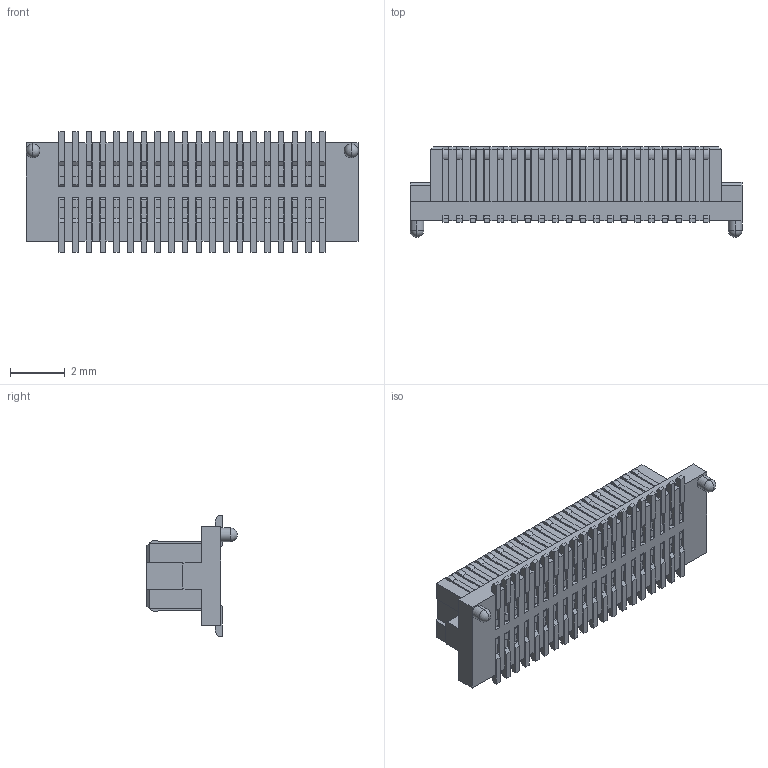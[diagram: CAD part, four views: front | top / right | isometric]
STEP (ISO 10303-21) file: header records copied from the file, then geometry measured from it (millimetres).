
FILE_DESCRIPTION (( 'STEP AP203' ), '1' );
FILE_NAME ('GT-B0502MSV27-40S1101.STEP', '2024-03-12T02:09:49', ( '' ), ( '' ), 'SwSTEP 2.0', 'SolidWorks 2023', '' );
FILE_SCHEMA (( 'CONFIG_CONTROL_DESIGN' ));
Length unit declared in the file: millimetre
Products named in the file (1): GT-B0502MSV27-40S1101
Bounding box: 12.1 x 3.3 x 4.4 mm (x, y, z)
Volume: 80.8 mm3; surface area: 389.4 mm2
Topology: 1 solids, 1 shells, 1526 faces, 4670 edges, 3082 vertices
Faces by surface type: plane 1304, cylinder 144, bspline 74, sphere 4
Entity records: 55067 total; most frequent: CARTESIAN_POINT 13437, ORIENTED_EDGE 9324, DIRECTION 7712, EDGE_CURVE 4662, LINE 4222, VECTOR 4222, VERTEX_POINT 3078, AXIS2_PLACEMENT_3D 1745
